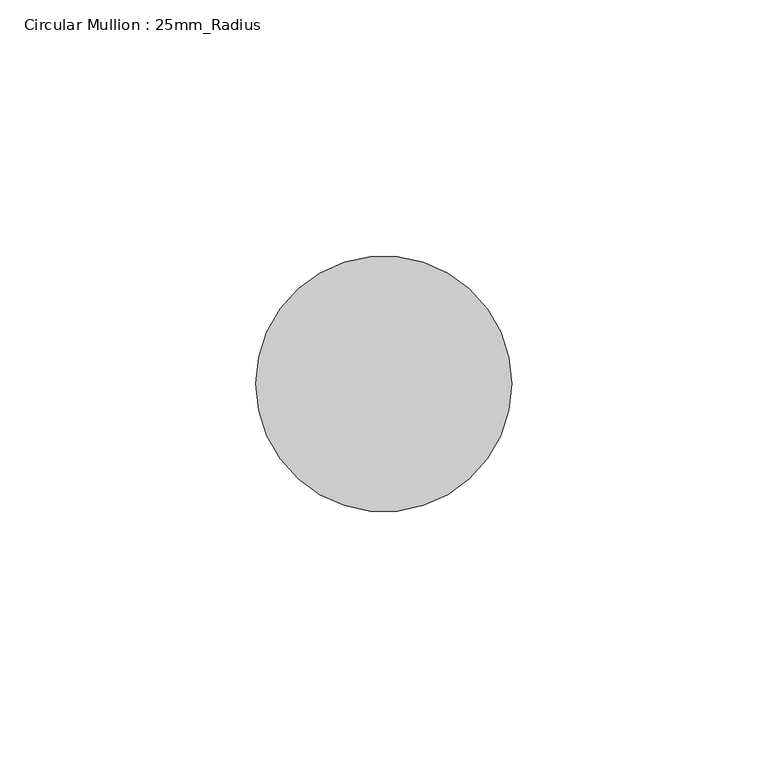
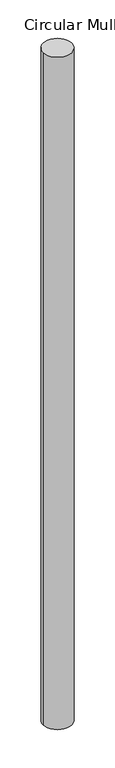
"""IFC4 building model written with IfcOpenShell, lengths in millimetres: member geometry, Circular Mullion : 25mm_Radius."""

from ifc_helpers import new_model, si_unit, point, frame, frame_2d, origin, place, context, project, spatial, circle_curve, trimmed, segment, composite_curve, outline, extrude, source, transform, mapped, element, save


def circular_mullion_25mm_radius_bea195f0(model_context):
    return source(origin(), model_context, "Body", "SweptSolid", [
        extrude(outline(composite_curve([segment(trimmed(circle_curve(frame_2d((-25.0, 0.0)), 25.0), [point((0.0, 0.0))], [point((-50.0, 0.0))], False, "CARTESIAN"), True, "CONTINUOUS"), segment(trimmed(circle_curve(frame_2d((-25.0, 0.0)), 25.0), [point((-50.0, 0.0))], [point((0.0, 0.0))], False, "CARTESIAN"), True, "CONTINUOUS")], self_intersect=False)), frame((0.0, 0.0, -1232.5669357), z_axis=(0.0, 0.0, 1.0), x_axis=(1.0, 0.0, 0.0)), (0.0, 0.0, 1.0), 1232.5669357),
    ])


if __name__ == "__main__":
    model = new_model("IFC4")
    model_context = context("Model", 3, world=origin())
    ifc_project = project(units=[si_unit("LENGTHUNIT", "METRE", prefix="MILLI")], contexts=[model_context])
    site = spatial("IfcSite", under=ifc_project)
    building = spatial("IfcBuilding", under=site)
    placement = place(None, origin())
    circular_mullion_25mm_radius_shape = circular_mullion_25mm_radius_bea195f0(model_context)
    element("IfcMember", 1, ObjectType="Circular Mullion : 25mm_Radius", at=placement, inside=building, context=model_context, shape_type="MappedRepresentation", body=[
        mapped(circular_mullion_25mm_radius_shape, transform((0.0, 0.0, 0.0), x_axis=(1.0, 0.0, 0.0), y_axis=(0.0, 1.0, 0.0), z_axis=(0.0, 0.0, 1.0))),
    ])
    save(model, "model.ifc")
